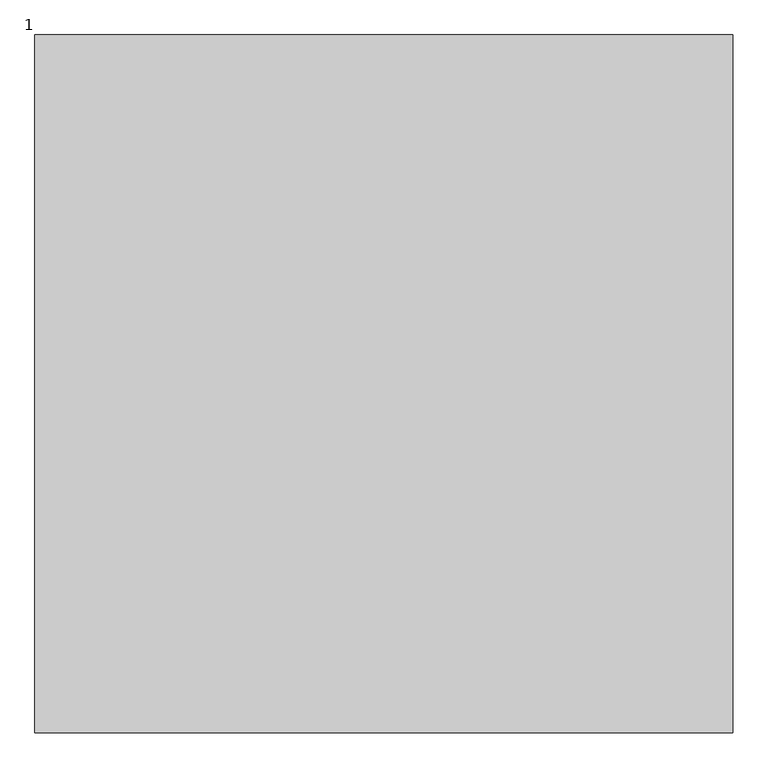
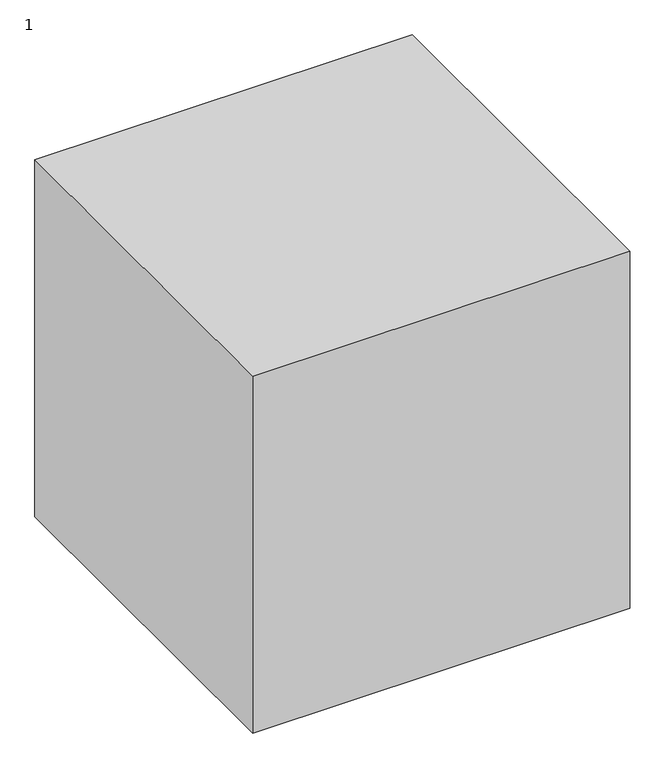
"""IFC4 building model written with IfcOpenShell, lengths in millimetres: proxy geometry, 1222121 : 1."""

from ifc_helpers import new_model, si_unit, origin, origin_with_axes, place, context, project, spatial, polyline, outline, extrude, source, transform, mapped, element, save


def proxy_1_3710970e(model_context):
    return source(origin(), model_context, "Body", "SweptSolid", [
        extrude(outline(polyline([(-8307.9756708, 3335.2294472), (-8307.9756708, 2335.2294472), (-9307.9756708, 2335.2294472), (-9307.9756708, 3335.2294472), (-8307.9756708, 3335.2294472)])), origin_with_axes(), (0.0, 0.0, 1.0), 1000.0),
    ])


if __name__ == "__main__":
    model = new_model("IFC4")
    model_context = context("Model", 3, world=origin())
    ifc_project = project(units=[si_unit("LENGTHUNIT", "METRE", prefix="MILLI")], contexts=[model_context])
    site = spatial("IfcSite", under=ifc_project)
    building = spatial("IfcBuilding", under=site)
    placement = place(None, origin())
    proxy_1_shape = proxy_1_3710970e(model_context)
    element("IfcBuildingElementProxy", 1, Name="1222121 : 1", ObjectType="1222121 : 1", at=placement, inside=building, context=model_context, shape_type="MappedRepresentation", body=[
        mapped(proxy_1_shape, transform((0.0, 0.0, 0.0), x_axis=(1.0, 0.0, 0.0), y_axis=(0.0, 1.0, 0.0), z_axis=(0.0, 0.0, 1.0))),
    ])
    save(model, "model.ifc")
